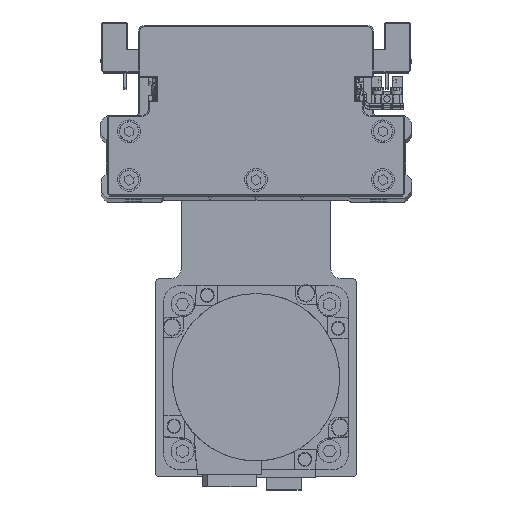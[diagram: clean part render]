
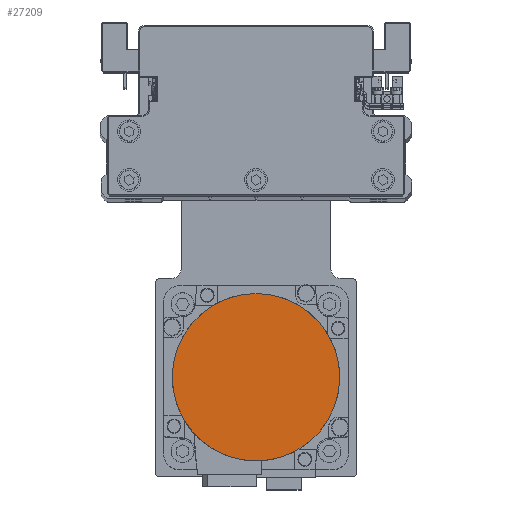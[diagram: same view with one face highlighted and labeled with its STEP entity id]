
A CAD part, top view. The second image highlights one B-rep face of the part: STEP entity #27209.
In plain terms, the highlighted planar face has unit normal (0, 0, 1) as drawn and (0, 0, -1) by its records, which use the part's own axes.
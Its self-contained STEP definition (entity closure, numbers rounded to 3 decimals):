
#83 = EDGE_CURVE ( 'NONE', #25518, #3725, #3720, .T. ) ;
#1862 = DIRECTION ( 'NONE',  ( 0., -1., 0. ) ) ;
#3690 = CARTESIAN_POINT ( 'NONE',  ( 0., 0., -122.2 ) ) ;
#3720 = CIRCLE ( 'NONE', #26523, 36.3 ) ;
#3725 = VERTEX_POINT ( 'NONE', #38025 ) ;
#5594 = CARTESIAN_POINT ( 'NONE',  ( 0., 0., -122.2 ) ) ;
#7303 = EDGE_CURVE ( 'NONE', #3725, #25518, #9392, .T. ) ;
#9392 = CIRCLE ( 'NONE', #32135, 36.3 ) ;
#9944 = ORIENTED_EDGE ( 'NONE', *, *, #83, .F. ) ;
#13079 = DIRECTION ( 'NONE',  ( 0., 0., 1. ) ) ;
#17369 = CARTESIAN_POINT ( 'NONE',  ( 0., 0., -122.2 ) ) ;
#18052 = DIRECTION ( 'NONE',  ( 0., 0., 1. ) ) ;
#21124 = FACE_OUTER_BOUND ( 'NONE', #30594, .T. ) ;
#24944 = ORIENTED_EDGE ( 'NONE', *, *, #7303, .F. ) ;
#25518 = VERTEX_POINT ( 'NONE', #27484 ) ;
#25534 = DIRECTION ( 'NONE',  ( 0., 1., 0. ) ) ;
#26523 = AXIS2_PLACEMENT_3D ( 'NONE', #3690, #13079, #25534 ) ;
#27209 = ADVANCED_FACE ( 'NONE', ( #21124 ), #33521, .F. ) ;
#27484 = CARTESIAN_POINT ( 'NONE',  ( 0., 36.3, -122.2 ) ) ;
#29819 = DIRECTION ( 'NONE',  ( 0., 0., 1. ) ) ;
#30492 = DIRECTION ( 'NONE',  ( 1., 0., 0. ) ) ;
#30594 = EDGE_LOOP ( 'NONE', ( #9944, #24944 ) ) ;
#32135 = AXIS2_PLACEMENT_3D ( 'NONE', #17369, #29819, #1862 ) ;
#33521 = PLANE ( 'NONE',  #34275 ) ;
#34275 = AXIS2_PLACEMENT_3D ( 'NONE', #5594, #18052, #30492 ) ;
#38025 = CARTESIAN_POINT ( 'NONE',  ( 0., -36.3, -122.2 ) ) ;
